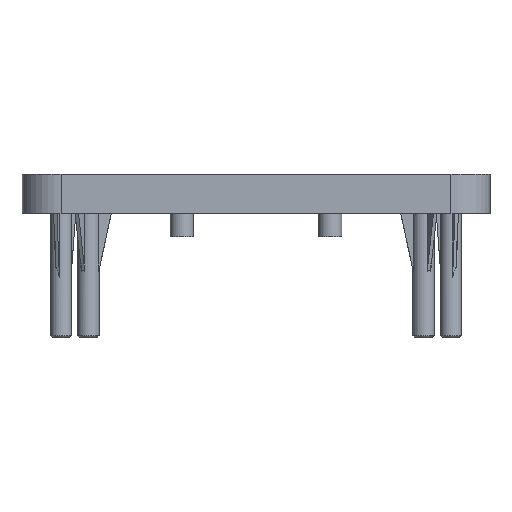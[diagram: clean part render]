
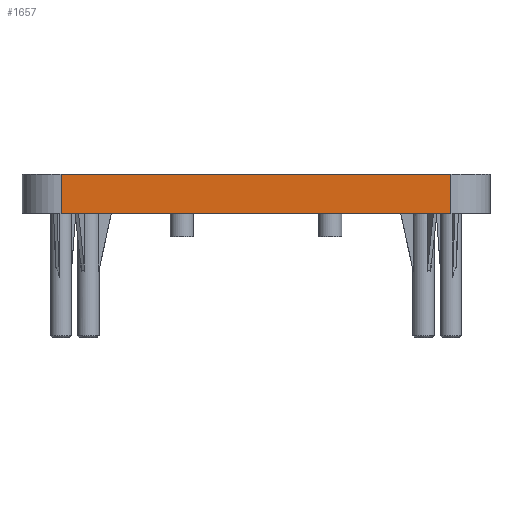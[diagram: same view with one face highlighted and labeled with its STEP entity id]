
A CAD part, front view. The second image highlights one B-rep face of the part: STEP entity #1657.
In plain terms, the highlighted planar face has unit normal (0, -1, 0).
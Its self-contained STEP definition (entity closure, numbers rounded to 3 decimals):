
#119 = ORIENTED_EDGE ( 'NONE', *, *, #5177, .T. ) ;
#357 = VECTOR ( 'NONE', #3688, 1000. ) ;
#501 = LINE ( 'NONE', #1299, #1527 ) ;
#608 = LINE ( 'NONE', #3186, #5377 ) ;
#661 = CARTESIAN_POINT ( 'NONE',  ( -60., -70., 10. ) ) ;
#717 = EDGE_LOOP ( 'NONE', ( #4356, #3850, #4029, #119 ) ) ;
#864 = DIRECTION ( 'NONE',  ( 0., 0., 1. ) ) ;
#1026 = LINE ( 'NONE', #2401, #357 ) ;
#1299 = CARTESIAN_POINT ( 'NONE',  ( 50., -70., 10. ) ) ;
#1490 = DIRECTION ( 'NONE',  ( 1., 0., 0. ) ) ;
#1527 = VECTOR ( 'NONE', #864, 1000. ) ;
#1657 = ADVANCED_FACE ( 'NONE', ( #5480 ), #4174, .F. ) ;
#1801 = AXIS2_PLACEMENT_3D ( 'NONE', #661, #3747, #2172 ) ;
#1922 = CARTESIAN_POINT ( 'NONE',  ( -60., -70., 10. ) ) ;
#2152 = VERTEX_POINT ( 'NONE', #2900 ) ;
#2172 = DIRECTION ( 'NONE',  ( -1., 0., 0. ) ) ;
#2401 = CARTESIAN_POINT ( 'NONE',  ( -50., -70., 10. ) ) ;
#2900 = CARTESIAN_POINT ( 'NONE',  ( 50., -70., 10. ) ) ;
#2907 = EDGE_CURVE ( 'NONE', #2935, #2152, #5018, .T. ) ;
#2935 = VERTEX_POINT ( 'NONE', #4961 ) ;
#3186 = CARTESIAN_POINT ( 'NONE',  ( -60., -70., 0. ) ) ;
#3688 = DIRECTION ( 'NONE',  ( 0., 0., -1. ) ) ;
#3711 = DIRECTION ( 'NONE',  ( 1., 0., 0. ) ) ;
#3747 = DIRECTION ( 'NONE',  ( 0., 1., 0. ) ) ;
#3788 = VERTEX_POINT ( 'NONE', #4728 ) ;
#3850 = ORIENTED_EDGE ( 'NONE', *, *, #2907, .F. ) ;
#3935 = EDGE_CURVE ( 'NONE', #5569, #2152, #501, .T. ) ;
#4029 = ORIENTED_EDGE ( 'NONE', *, *, #5102, .T. ) ;
#4174 = PLANE ( 'NONE',  #1801 ) ;
#4356 = ORIENTED_EDGE ( 'NONE', *, *, #3935, .T. ) ;
#4728 = CARTESIAN_POINT ( 'NONE',  ( -50., -70., 0. ) ) ;
#4961 = CARTESIAN_POINT ( 'NONE',  ( -50., -70., 10. ) ) ;
#5018 = LINE ( 'NONE', #1922, #5070 ) ;
#5070 = VECTOR ( 'NONE', #3711, 1000. ) ;
#5102 = EDGE_CURVE ( 'NONE', #2935, #3788, #1026, .T. ) ;
#5177 = EDGE_CURVE ( 'NONE', #3788, #5569, #608, .T. ) ;
#5337 = CARTESIAN_POINT ( 'NONE',  ( 50., -70., 0. ) ) ;
#5377 = VECTOR ( 'NONE', #1490, 1000. ) ;
#5480 = FACE_OUTER_BOUND ( 'NONE', #717, .T. ) ;
#5569 = VERTEX_POINT ( 'NONE', #5337 ) ;
